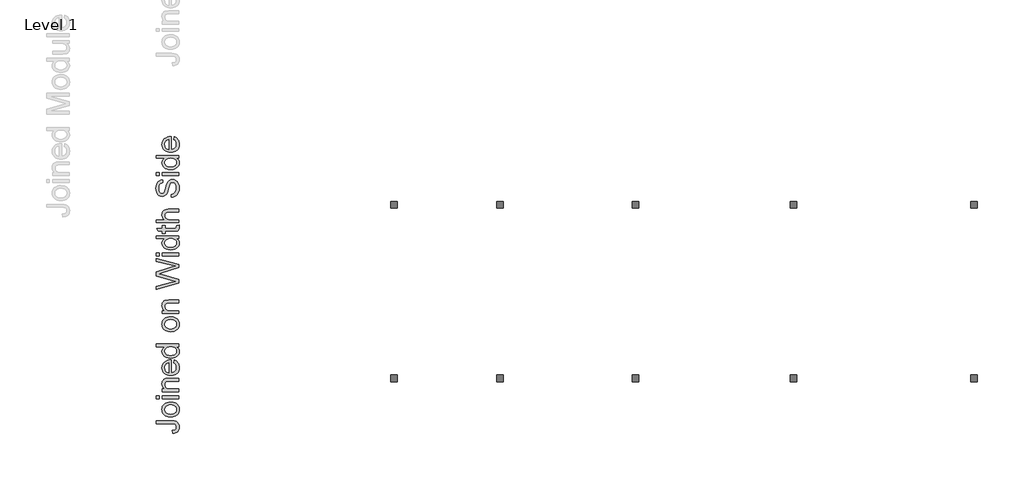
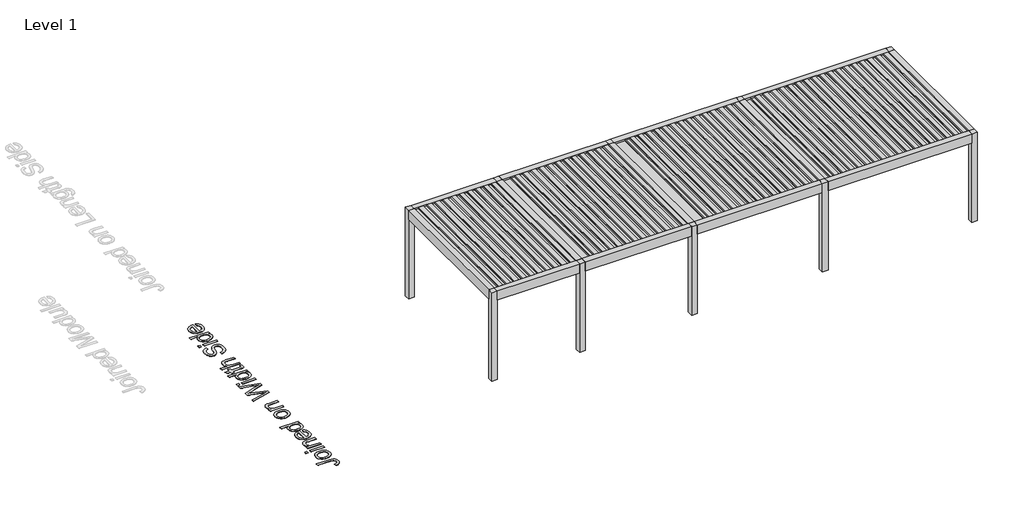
# One storey, part 40 of 69: 2 proxies.
"""IFC4 building model written with IfcOpenShell, lengths in millimetres."""

from ifc_helpers import new_model, si_unit, origin, origin_with_axes, place, context, project, spatial, polyline, outline, extrude, transform, mapped, element, save
from components import generic_models_eab410b6

model = new_model("IFC4")

# Units and contexts
model_context = context("Model", 3, world=origin())
ifc_project = project(units=[si_unit("LENGTHUNIT", "METRE", prefix="MILLI")], contexts=[model_context])

# Site, building, storey
site = spatial("IfcSite", under=ifc_project)
building = spatial("IfcBuilding", under=site)
storey = spatial("IfcBuildingStorey", under=building, Name="Level 1", Elevation=0.0)

# Proxies
placement = place(None, origin())
generic_models_shape = generic_models_eab410b6(model_context)
element("IfcBuildingElementProxy", 1, Name="Renson_Camargue_Freestanding_Patio covers : Renson_Camargue_Freestanding_Patio covers", ObjectType="Renson_Camargue_Freestanding_Patio covers : Renson_Camargue_Freestanding_Patio covers", at=placement, inside=storey, context=model_context, shape_type="MappedRepresentation", body=[
    mapped(generic_models_shape, transform((-10046.834943, 14204.0136657, 0.0), x_axis=(1.0, 0.0, 0.0), y_axis=(0.0, 1.0, 0.0), z_axis=(0.0, 0.0, 1.0))),
])
element("IfcBuildingElementProxy", 2, Name="500mm Arial", ObjectType="500mm Arial", at=placement, inside=storey, context=model_context, shape_type="SweptSolid", body=[
    extrude(outline(polyline([(-16128.0287727, 11064.9341672), (-16136.1221765, 11127.7193611), (-16090.4741523, 11134.2492665), (-16074.0650825, 11140.6642088), (-16061.9326409, 11149.1791441), (-16046.9414495, 11171.9878278), (-16041.9443858, 11202.1541514), (-16044.7801428, 11225.3460455), (-16053.287414, 11245.1350312), (-16066.68445, 11260.402134), (-16084.1895016, 11270.0283795), (-16109.527374, 11275.1327422), (-16146.4228724, 11276.8341965), (-16489.2888919, 11276.8341965), (-16489.2888919, 11339.6193903), (-16147.5265184, 11339.6193903), (-16091.6237835, 11335.8332714), (-16049.976476, 11324.4749148), (-16019.5495693, 11304.8851986), (-15997.308037, 11276.4050008), (-15983.6964032, 11240.6438052), (-15979.1591919, 11199.2110955), (-15981.5006076, 11168.2706868), (-15988.5248544, 11141.1777107), (-16000.2319325, 11117.9321672), (-16016.6218418, 11098.5340561), (-16037.6332686, 11083.328267), (-16063.2048994, 11072.6596891), (-16093.3367341, 11066.5283225), (-16128.0287727, 11064.9341672)])), origin_with_axes(), (0.0, 0.0, 1.0), 5.0),
    extrude(outline(polyline([(-16171.4388481, 11425.9490318), (-16219.209858, 11429.3442761), (-16260.3743204, 11439.5300088), (-16294.9322353, 11456.5062301), (-16322.8836028, 11480.2729398), (-16340.7488722, 11504.2005979), (-16353.5097789, 11530.6114595), (-16361.1663229, 11559.5055245), (-16363.7185042, 11590.882793), (-16360.6106678, 11625.5211821), (-16351.2871585, 11656.8409691), (-16335.7479763, 11684.8421538), (-16313.9931212, 11709.5247364), (-16286.7583573, 11729.6701078), (-16254.7794484, 11744.0596587), (-16218.0563947, 11752.6933893), (-16176.589196, 11755.5712995), (-16113.1602087, 11750.4822652), (-16087.1248933, 11744.1209724), (-16064.8756968, 11735.2151624), (-16045.6576947, 11723.8759664), (-16028.7159624, 11710.2145152), (-16014.0504999, 11694.2308089), (-16001.6613073, 11675.9248476), (-15984.7847208, 11635.197245), (-15979.1591919, 11590.882793), (-15982.2555321, 11555.7385661), (-15991.5445524, 11524.1275393), (-16007.0262531, 11496.0497124), (-16028.700634, 11471.5050856), (-16056.1998131, 11451.5743121), (-16089.1559085, 11437.3380453), (-16127.5689202, 11428.7962852), (-16171.4388481, 11425.9490318)]), holes=[polyline([(-16171.5614754, 11488.7342257), (-16141.107744, 11490.550643), (-16114.7390356, 11495.9998951), (-16092.4553501, 11505.0819818), (-16074.2566877, 11517.7969033), (-16060.1200556, 11533.2632755), (-16050.0224613, 11550.5997145), (-16043.9639046, 11569.8062204), (-16041.9443858, 11590.882793), (-16043.975401, 11611.8520667), (-16050.0684465, 11630.9819305), (-16060.2235224, 11648.2723842), (-16074.4406287, 11663.723428), (-16092.8194, 11676.4383495), (-16115.4594711, 11685.5204363), (-16142.360842, 11690.9696883), (-16173.5235127, 11692.7861057), (-16203.0115539, 11690.958192), (-16228.6904836, 11685.474451), (-16250.5603018, 11676.3348827), (-16268.6210085, 11663.539487), (-16282.7576406, 11648.0309617), (-16292.8552349, 11630.7520042), (-16298.9137915, 11611.7026147), (-16300.9333104, 11590.882793), (-16298.9214557, 11569.8062204), (-16292.8858917, 11550.5997145), (-16282.8266184, 11533.2632755), (-16268.7436358, 11517.7969033), (-16250.5986228, 11505.0819818), (-16228.3532584, 11495.9998951), (-16202.0075426, 11490.550643), (-16171.5614754, 11488.7342257)])]), origin_with_axes(), (0.0, 0.0, 1.0), 5.0),
    extrude(outline(polyline([(-16426.5036981, 11826.2046426), (-16489.2888919, 11826.2046426), (-16489.2888919, 11888.9898364), (-16426.5036981, 11888.9898364), (-16426.5036981, 11826.2046426)])), origin_with_axes(), (0.0, 0.0, 1.0), 5.0),
    extrude(outline(polyline([(-15987.0073412, 11826.2046426), (-16355.870355, 11826.2046426), (-16355.870355, 11888.9898364), (-15987.0073412, 11888.9898364), (-15987.0073412, 11826.2046426)])), origin_with_axes(), (0.0, 0.0, 1.0), 5.0),
    extrude(outline(polyline([(-15987.0073412, 11983.1676272), (-16355.870355, 11983.1676272), (-16355.870355, 12045.952821), (-16304.3668757, 12045.952821), (-16330.3332132, 12067.7651577), (-16348.8805971, 12093.9614214), (-16360.0090274, 12124.5416123), (-16363.7185042, 12159.5057302), (-16360.729463, 12190.4538031), (-16351.7623394, 12218.7960451), (-16337.9361077, 12242.4324633), (-16320.3697425, 12259.2630646), (-16299.1092288, 12270.6827348), (-16274.2005521, 12278.08636), (-16213.5000229, 12281.3972979), (-15987.0073412, 12281.3972979), (-15987.0073412, 12218.6121041), (-16205.038737, 12218.6121041), (-16237.504323, 12216.803351), (-16260.5889182, 12211.3770915), (-16277.1282796, 12201.3676356), (-16289.9581642, 12185.8092929), (-16298.1895238, 12165.867023), (-16300.9333104, 12142.7057858), (-16299.3928045, 12123.6410678), (-16294.771287, 12105.9329147), (-16287.0687577, 12089.5813264), (-16276.2852167, 12074.586303), (-16261.1943907, 12062.0591546), (-16240.5700063, 12053.1111915), (-16214.4120636, 12047.7424137), (-16182.7205626, 12045.952821), (-15987.0073412, 12045.952821), (-15987.0073412, 11983.1676272)])), origin_with_axes(), (0.0, 0.0, 1.0), 5.0),
    extrude(outline(polyline([(-16096.8814304, 12625.9801001), (-16089.0332812, 12687.5390206), (-16064.3775233, 12678.1005482), (-16042.6494929, 12665.358802), (-16023.8491901, 12649.3137821), (-16007.9766149, 12629.9654884), (-15995.3689923, 12607.5131904), (-15986.3635477, 12582.1561574), (-15980.9602809, 12553.8943896), (-15979.1591919, 12522.7278868), (-15982.2670284, 12483.7707163), (-15991.5905377, 12449.0595172), (-16007.1297199, 12418.5942895), (-16028.884575, 12392.3750332), (-16056.2496304, 12371.2907963), (-16088.6194139, 12356.2306271), (-16125.9939254, 12347.1945256), (-16168.3731648, 12344.1824918), (-16212.1894433, 12347.2251825), (-16250.8093885, 12356.3532545), (-16284.2330006, 12371.5667078), (-16312.4602796, 12392.8655425), (-16334.8857529, 12419.015821), (-16350.9039481, 12448.7836058), (-16360.5148652, 12482.1688968), (-16363.7185042, 12519.1716942), (-16360.5225294, 12554.9827071), (-16350.9346049, 12587.367819), (-16334.9547307, 12616.3270298), (-16312.5829069, 12641.8603396), (-16284.4169416, 12662.7031538), (-16251.0546432, 12677.5908783), (-16212.4960116, 12686.523513), (-16168.7410468, 12689.5010579), (-16151.818475, 12689.1331759), (-16151.818475, 12406.9676856), (-16126.7641783, 12410.6043524), (-16104.8215501, 12417.8355329), (-16085.9905905, 12428.661227), (-16070.2712994, 12443.0814348), (-16057.8782747, 12460.2990786), (-16049.0261142, 12479.5170808), (-16043.7148179, 12500.7354413), (-16041.9443858, 12523.9541601), (-16045.2246669, 12557.370108), (-16055.0655103, 12585.5130806), (-16072.0800526, 12608.383078), (-16096.8814304, 12625.9801001)]), holes=[polyline([(-16214.6036688, 12406.9676856), (-16214.6036688, 12626.7158641), (-16247.7743621, 12618.2239214), (-16271.5027508, 12601.5772611), (-16284.3786206, 12584.4554199), (-16293.5756705, 12564.9730026), (-16299.0939004, 12543.1300091), (-16300.9333104, 12518.9264395), (-16295.0625269, 12476.6046816), (-16287.7240475, 12458.1914214), (-16277.4501764, 12441.6099068), (-16264.7160944, 12427.6955368), (-16249.9969825, 12417.2837099), (-16233.2928406, 12410.3744262), (-16214.6036688, 12406.9676856)])]), origin_with_axes(), (0.0, 0.0, 1.0), 5.0),
    extrude(outline(polyline([(-15987.0073412, 12979.8825795), (-16046.2363424, 12979.8825795), (-16016.8900891, 12961.0976051), (-15995.9284795, 12938.3425708), (-15983.3515138, 12911.6174767), (-15979.1591919, 12880.9223228), (-15985.2292449, 12840.332676), (-16003.4394036, 12803.1765944), (-16032.5174097, 12771.7226839), (-16071.1910044, 12748.2395498), (-16117.8966894, 12733.6162405), (-16171.0709661, 12728.7418041), (-16223.5861209, 12733.2330301), (-16271.0122414, 12746.7067082), (-16292.1424635, 12756.8081346), (-16310.6515264, 12769.1475099), (-16326.5394301, 12783.7248339), (-16339.8061745, 12800.5401068), (-16357.7404218, 12838.5085944), (-16363.7185042, 12880.6770681), (-16359.441876, 12911.3952147), (-16346.6119915, 12938.5571687), (-16326.9456331, 12961.5804502), (-16302.1595837, 12979.8825795), (-16489.2888919, 12979.8825795), (-16489.2888919, 13042.6677733), (-15987.0073412, 13042.6677733), (-15987.0073412, 12979.8825795)]), holes=[polyline([(-16171.3162207, 12791.5269979), (-16140.8701535, 12793.29743), (-16114.5244377, 12798.6087263), (-16092.2790733, 12807.4608868), (-16074.1340604, 12819.8539116), (-16060.0510777, 12834.6534977), (-16049.9918044, 12850.7253423), (-16043.9562404, 12868.0694455), (-16041.9443858, 12886.6858073), (-16043.8642699, 12905.3903075), (-16049.6239224, 12922.630944), (-16059.2233432, 12938.4077166), (-16072.6625324, 12952.7206255), (-16090.0487888, 12964.6039803), (-16111.4894113, 12973.092091), (-16136.9844, 12978.1849573), (-16166.5337548, 12979.8825795), (-16198.930363, 12978.1543005), (-16226.7131179, 12972.9694636), (-16249.8820193, 12964.3280688), (-16268.4370675, 12952.2301162), (-16282.6541737, 12937.6029747), (-16292.8092497, 12921.3740138), (-16298.9022952, 12903.5432334), (-16300.9333104, 12884.1106334), (-16298.9827694, 12865.1263896), (-16293.1311464, 12847.7822864), (-16283.3784414, 12832.0783237), (-16269.7246545, 12818.0145016), (-16251.8708814, 12806.4262187), (-16229.5182181, 12798.1488738), (-16202.6666645, 12793.1824669), (-16171.3162207, 12791.5269979)])]), origin_with_axes(), (0.0, 0.0, 1.0), 5.0),
    extrude(outline(polyline([(-16171.4388481, 13317.3529964), (-16219.209858, 13320.7482406), (-16260.3743204, 13330.9339734), (-16294.9322353, 13347.9101946), (-16322.8836028, 13371.6769043), (-16340.7488722, 13395.6045624), (-16353.5097789, 13422.015424), (-16361.1663229, 13450.909489), (-16363.7185042, 13482.2867575), (-16360.6106678, 13516.9251466), (-16351.2871585, 13548.2449336), (-16335.7479763, 13576.2461184), (-16313.9931212, 13600.928701), (-16286.7583573, 13621.0740723), (-16254.7794484, 13635.4636233), (-16218.0563947, 13644.0973539), (-16176.589196, 13646.975264), (-16113.1602087, 13641.8862298), (-16087.1248933, 13635.5249369), (-16064.8756968, 13626.619127), (-16045.6576947, 13615.2799309), (-16028.7159624, 13601.6184797), (-16014.0504999, 13585.6347735), (-16001.6613073, 13567.3288121), (-15984.7847208, 13526.6012095), (-15979.1591919, 13482.2867575), (-15982.2555321, 13447.1425307), (-15991.5445524, 13415.5315038), (-16007.0262531, 13387.453677), (-16028.700634, 13362.9090501), (-16056.1998131, 13342.9782766), (-16089.1559085, 13328.7420098), (-16127.5689202, 13320.2002497), (-16171.4388481, 13317.3529964)]), holes=[polyline([(-16171.5614754, 13380.1381902), (-16141.107744, 13381.9546076), (-16114.7390356, 13387.4038596), (-16092.4553501, 13396.4859464), (-16074.2566877, 13409.2008678), (-16060.1200556, 13424.66724), (-16050.0224613, 13442.0036791), (-16043.9639046, 13461.2101849), (-16041.9443858, 13482.2867575), (-16043.975401, 13503.2560313), (-16050.0684465, 13522.385895), (-16060.2235224, 13539.6763488), (-16074.4406287, 13555.1273926), (-16092.8194, 13567.842314), (-16115.4594711, 13576.9244008), (-16142.360842, 13582.3736528), (-16173.5235127, 13584.1900702), (-16203.0115539, 13582.3621565), (-16228.6904836, 13576.8784155), (-16250.5603018, 13567.7388472), (-16268.6210085, 13554.9434516), (-16282.7576406, 13539.4349262), (-16292.8552349, 13522.1559688), (-16298.9137915, 13503.1065792), (-16300.9333104, 13482.2867575), (-16298.9214557, 13461.2101849), (-16292.8858917, 13442.0036791), (-16282.8266184, 13424.66724), (-16268.7436358, 13409.2008678), (-16250.5986228, 13396.4859464), (-16228.3532584, 13387.4038596), (-16202.0075426, 13381.9546076), (-16171.5614754, 13380.1381902)])]), origin_with_axes(), (0.0, 0.0, 1.0), 5.0),
    extrude(outline(polyline([(-15987.0073412, 13717.6086071), (-16355.870355, 13717.6086071), (-16355.870355, 13780.393801), (-16304.3668757, 13780.393801), (-16330.3332132, 13802.2061376), (-16348.8805971, 13828.4024013), (-16360.0090274, 13858.9825922), (-16363.7185042, 13893.9467101), (-16360.729463, 13924.894783), (-16351.7623394, 13953.237025), (-16337.9361077, 13976.8734432), (-16320.3697425, 13993.7040445), (-16299.1092288, 14005.1237148), (-16274.2005521, 14012.5273399), (-16213.5000229, 14015.8382779), (-15987.0073412, 14015.8382779), (-15987.0073412, 13953.053084), (-16205.038737, 13953.053084), (-16237.504323, 13951.2443309), (-16260.5889182, 13945.8180715), (-16277.1282796, 13935.8086155), (-16289.9581642, 13920.2502728), (-16298.1895238, 13900.308003), (-16300.9333104, 13877.1467657), (-16299.3928045, 13858.0820477), (-16294.771287, 13840.3738946), (-16287.0687577, 13824.0223063), (-16276.2852167, 13809.0272829), (-16261.1943907, 13796.5001346), (-16240.5700063, 13787.5521715), (-16214.4120636, 13782.1833936), (-16182.7205626, 13780.393801), (-15987.0073412, 13780.393801), (-15987.0073412, 13717.6086071)])), origin_with_axes(), (0.0, 0.0, 1.0), 5.0),
    extrude(outline(polyline([(-15987.0073412, 14396.1056336), (-16489.2888919, 14259.130904), (-16489.2888919, 14323.8781352), (-16159.1761149, 14403.3406461), (-16057.2728022, 14427.8661125), (-16147.4038911, 14454.1083615), (-16489.2888919, 14553.6817548), (-16489.2888919, 14647.0011543), (-16241.4590545, 14719.35128), (-16149.4885557, 14750.3453381), (-16057.2728022, 14773.1846786), (-16156.2330589, 14796.974381), (-16489.2888919, 14877.1726559), (-16489.2888919, 14941.9198871), (-15987.0073412, 14804.8225302), (-15987.0073412, 14737.7453797), (-16374.5097094, 14617.32534), (-16428.5883627, 14600.5253955), (-16363.4732496, 14581.6407865), (-15987.0073412, 14471.8893246), (-15987.0073412, 14396.1056336)])), origin_with_axes(), (0.0, 0.0, 1.0), 5.0),
    extrude(outline(polyline([(-16426.5036981, 14996.8569317), (-16489.2888919, 14996.8569317), (-16489.2888919, 15059.6421255), (-16426.5036981, 15059.6421255), (-16426.5036981, 14996.8569317)])), origin_with_axes(), (0.0, 0.0, 1.0), 5.0),
    extrude(outline(polyline([(-15987.0073412, 14996.8569317), (-16355.870355, 14996.8569317), (-16355.870355, 15059.6421255), (-15987.0073412, 15059.6421255), (-15987.0073412, 14996.8569317)])), origin_with_axes(), (0.0, 0.0, 1.0), 5.0),
    extrude(outline(polyline([(-15987.0073412, 15381.416244), (-16046.2363424, 15381.416244), (-16016.8900891, 15362.6312696), (-15995.9284795, 15339.8762353), (-15983.3515138, 15313.1511412), (-15979.1591919, 15282.4559873), (-15985.2292449, 15241.8663405), (-16003.4394036, 15204.710259), (-16032.5174097, 15173.2563484), (-16071.1910044, 15149.7732143), (-16117.8966894, 15135.149905), (-16171.0709661, 15130.2754686), (-16223.5861209, 15134.7666946), (-16271.0122414, 15148.2403727), (-16292.1424635, 15158.3417991), (-16310.6515264, 15170.6811744), (-16326.5394301, 15185.2584985), (-16339.8061745, 15202.0737713), (-16357.7404218, 15240.0422589), (-16363.7185042, 15282.2107326), (-16359.441876, 15312.9288792), (-16346.6119915, 15340.0908332), (-16326.9456331, 15363.1141147), (-16302.1595837, 15381.416244), (-16489.2888919, 15381.416244), (-16489.2888919, 15444.2014378), (-15987.0073412, 15444.2014378), (-15987.0073412, 15381.416244)]), holes=[polyline([(-16171.3162207, 15193.0606624), (-16140.8701535, 15194.8310945), (-16114.5244377, 15200.1423908), (-16092.2790733, 15208.9945514), (-16074.1340604, 15221.3875761), (-16060.0510777, 15236.1871622), (-16049.9918044, 15252.2590068), (-16043.9562404, 15269.6031101), (-16041.9443858, 15288.2194719), (-16043.8642699, 15306.9239721), (-16049.6239224, 15324.1646085), (-16059.2233432, 15339.9413811), (-16072.6625324, 15354.25429), (-16090.0487888, 15366.1376449), (-16111.4894113, 15374.6257555), (-16136.9844, 15379.7186218), (-16166.5337548, 15381.416244), (-16198.930363, 15379.687965), (-16226.7131179, 15374.5031281), (-16249.8820193, 15365.8617334), (-16268.4370675, 15353.7637807), (-16282.6541737, 15339.1366393), (-16292.8092497, 15322.9076783), (-16298.9022952, 15305.0768979), (-16300.9333104, 15285.6442979), (-16298.9827694, 15266.6600541), (-16293.1311464, 15249.3159509), (-16283.3784414, 15233.6119882), (-16269.7246545, 15219.5481661), (-16251.8708814, 15207.9598832), (-16229.5182181, 15199.6825384), (-16202.6666645, 15194.7161314), (-16171.3162207, 15193.0606624)])]), origin_with_axes(), (0.0, 0.0, 1.0), 5.0),
    extrude(outline(polyline([(-16039.3692118, 15671.7977655), (-15985.1679312, 15679.6459147), (-15979.1591919, 15632.6796467), (-15981.7650227, 15602.5439799), (-15989.5825151, 15580.0725214), (-16001.6306505, 15564.1922819), (-16016.9284101, 15553.8302724), (-16043.2013159, 15548.1281015), (-16088.1748898, 15546.2273778), (-16293.0851612, 15546.2273778), (-16293.0851612, 15499.1384824), (-16355.870355, 15499.1384824), (-16355.870355, 15546.2273778), (-16445.5109345, 15546.2273778), (-16482.4217613, 15609.0125717), (-16355.870355, 15609.0125717), (-16355.870355, 15671.7977655), (-16293.0851612, 15671.7977655), (-16293.0851612, 15609.0125717), (-16090.0142998, 15609.0125717), (-16057.6406842, 15612.3235096), (-16046.1750287, 15623.0534011), (-16041.9443858, 15644.4518705), (-16039.3692118, 15671.7977655)])), origin_with_axes(), (0.0, 0.0, 1.0), 5.0),
    extrude(outline(polyline([(-15987.0073412, 15734.5829593), (-16489.2888919, 15734.5829593), (-16489.2888919, 15797.3681532), (-16304.6121303, 15797.3681532), (-16330.4711689, 15820.4297558), (-16348.9419108, 15846.3271154), (-16360.0243559, 15875.060232), (-16363.7185042, 15906.6291058), (-16359.6871307, 15944.5516081), (-16347.5930101, 15977.1398215), (-16328.3865043, 16002.7995907), (-16303.017975, 16019.9367603), (-16268.161156, 16029.5936626), (-16220.4897808, 16032.8126301), (-15987.0073412, 16032.8126301), (-15987.0073412, 15970.0274363), (-16213.9905322, 15970.0274363), (-16253.292592, 15965.0303725), (-16268.2991117, 15958.7840428), (-16280.2092913, 15950.0391812), (-16289.2760497, 15939.0027213), (-16295.7523056, 15925.8815968), (-16300.9333104, 15893.3853539), (-16297.4384314, 15866.851865), (-16286.9537946, 15841.9431883), (-16270.4910753, 15821.3111397), (-16249.0619491, 15807.6075354), (-16220.5817513, 15799.9279987), (-16182.9658173, 15797.3681532), (-15987.0073412, 15797.3681532), (-15987.0073412, 15734.5829593)])), origin_with_axes(), (0.0, 0.0, 1.0), 5.0),
    extrude(outline(polyline([(-16159.6666242, 16299.6497039), (-16159.6666242, 16362.4348978), (-16124.8251336, 16369.6392535), (-16096.8201167, 16382.6684075), (-16074.5939129, 16402.9938877), (-16057.0888612, 16432.0872222), (-16045.7305046, 16467.6491484), (-16041.9443858, 16507.3804039), (-16044.8107997, 16542.3598502), (-16053.4100413, 16572.9860263), (-16067.0216751, 16597.8027326), (-16084.9252655, 16615.3537695), (-16105.480672, 16625.7924211), (-16127.047754, 16629.2719716), (-16148.063013, 16626.6661408), (-16166.2271865, 16618.8486484), (-16181.7242155, 16602.968409), (-16194.7380411, 16576.174337), (-16218.7116845, 16484.7556612), (-16234.5765955, 16424.7449107), (-16249.6750857, 16386.3472275), (-16270.7976436, 16355.0925863), (-16296.3960991, 16332.9430245), (-16325.9186292, 16319.7452579), (-16358.813411, 16315.3460024), (-16395.5862821, 16320.7875902), (-16429.8759497, 16337.1123538), (-16445.4036356, 16349.2486275), (-16458.9386273, 16363.8910973), (-16480.0305284, 16400.6946253), (-16492.860413, 16444.8711215), (-16497.1370411, 16493.7687701), (-16492.6611435, 16546.7437774), (-16479.2334507, 16593.0969088), (-16457.1298742, 16631.1726953), (-16442.9280963, 16646.4857833), (-16426.6263254, 16659.3156679), (-16389.6235281, 16677.1272878), (-16348.0222058, 16684.2090162), (-16348.0222058, 16621.4238224), (-16368.0564461, 16617.2238363), (-16385.4848556, 16609.8968532), (-16400.3074343, 16599.4428732), (-16412.5241823, 16585.8618962), (-16422.0737857, 16568.9010034), (-16428.894931, 16548.3072758), (-16434.3518473, 16496.2213167), (-16428.9562447, 16442.9090842), (-16422.2117415, 16422.5299545), (-16412.7694369, 16406.3354825), (-16401.4187445, 16393.9961073), (-16388.9490777, 16385.1822678), (-16375.3604365, 16379.8939641), (-16360.6528209, 16378.1311962), (-16336.5258934, 16383.12826), (-16317.1201182, 16398.1194513), (-16308.4902197, 16411.8843693), (-16299.7683507, 16433.5587502), (-16282.0487013, 16500.6359006), (-16265.2181, 16569.8590294), (-16250.533477, 16611.7362632), (-16227.7554502, 16647.5281156), (-16199.6431344, 16672.498106), (-16166.503098, 16687.1674006), (-16128.6419093, 16692.0571655), (-16089.9376577, 16686.4316366), (-16053.5326686, 16669.5550501), (-16022.2013854, 16642.1171846), (-15998.7182513, 16604.8078189), (-15984.0489568, 16559.9415439), (-15979.1591919, 16509.8329505), (-15984.4321672, 16448.3200152), (-15991.0233863, 16421.6447385), (-16000.251093, 16397.6902556), (-16012.1306158, 16376.3109468), (-16026.677283, 16357.3611919), (-16043.8910947, 16340.8409911), (-16063.7720508, 16326.7503442), (-16085.676358, 16315.3996519), (-16108.9602226, 16307.0993143), (-16133.6236447, 16301.8493317), (-16159.6666242, 16299.6497039)])), origin_with_axes(), (0.0, 0.0, 1.0), 5.0),
    extrude(outline(polyline([(-16426.5036981, 16778.386807), (-16489.2888919, 16778.386807), (-16489.2888919, 16841.1720008), (-16426.5036981, 16841.1720008), (-16426.5036981, 16778.386807)])), origin_with_axes(), (0.0, 0.0, 1.0), 5.0),
    extrude(outline(polyline([(-15987.0073412, 16778.386807), (-16355.870355, 16778.386807), (-16355.870355, 16841.1720008), (-15987.0073412, 16841.1720008), (-15987.0073412, 16778.386807)])), origin_with_axes(), (0.0, 0.0, 1.0), 5.0),
    extrude(outline(polyline([(-15987.0073412, 17162.9461193), (-16046.2363424, 17162.9461193), (-16016.8900891, 17144.1611449), (-15995.9284795, 17121.4061107), (-15983.3515138, 17094.6810165), (-15979.1591919, 17063.9858626), (-15985.2292449, 17023.3962158), (-16003.4394036, 16986.2401343), (-16032.5174097, 16954.7862237), (-16071.1910044, 16931.3030897), (-16117.8966894, 16916.6797803), (-16171.0709661, 16911.8053439), (-16223.5861209, 16916.2965699), (-16271.0122414, 16929.770248), (-16292.1424635, 16939.8716745), (-16310.6515264, 16952.2110497), (-16326.5394301, 16966.7883738), (-16339.8061745, 16983.6036466), (-16357.7404218, 17021.5721342), (-16363.7185042, 17063.7406079), (-16359.441876, 17094.4587545), (-16346.6119915, 17121.6207085), (-16326.9456331, 17144.64399), (-16302.1595837, 17162.9461193), (-16489.2888919, 17162.9461193), (-16489.2888919, 17225.7313131), (-15987.0073412, 17225.7313131), (-15987.0073412, 17162.9461193)]), holes=[polyline([(-16171.3162207, 16974.5905377), (-16140.8701535, 16976.3609699), (-16114.5244377, 16981.6722662), (-16092.2790733, 16990.5244267), (-16074.1340604, 17002.9174514), (-16060.0510777, 17017.7170375), (-16049.9918044, 17033.7888821), (-16043.9562404, 17051.1329854), (-16041.9443858, 17069.7493472), (-16043.8642699, 17088.4538474), (-16049.6239224, 17105.6944838), (-16059.2233432, 17121.4712564), (-16072.6625324, 17135.7841653), (-16090.0487888, 17147.6675202), (-16111.4894113, 17156.1556308), (-16136.9844, 17161.2484972), (-16166.5337548, 17162.9461193), (-16198.930363, 17161.2178403), (-16226.7131179, 17156.0330035), (-16249.8820193, 17147.3916087), (-16268.4370675, 17135.293656), (-16282.6541737, 17120.6665146), (-16292.8092497, 17104.4375536), (-16298.9022952, 17086.6067732), (-16300.9333104, 17067.1741732), (-16298.9827694, 17048.1899294), (-16293.1311464, 17030.8458262), (-16283.3784414, 17015.1418635), (-16269.7246545, 17001.0780414), (-16251.8708814, 16989.4897586), (-16229.5182181, 16981.2124137), (-16202.6666645, 16976.2460067), (-16171.3162207, 16974.5905377)])]), origin_with_axes(), (0.0, 0.0, 1.0), 5.0),
    extrude(outline(polyline([(-16096.8814304, 17578.1622645), (-16089.0332812, 17639.721185), (-16064.3775233, 17630.2827126), (-16042.6494929, 17617.5409664), (-16023.8491901, 17601.4959465), (-16007.9766149, 17582.1476528), (-15995.3689923, 17559.6953548), (-15986.3635477, 17534.3383218), (-15980.9602809, 17506.076554), (-15979.1591919, 17474.9100512), (-15982.2670284, 17435.9528807), (-15991.5905377, 17401.2416817), (-16007.1297199, 17370.7764539), (-16028.884575, 17344.5571976), (-16056.2496304, 17323.4729607), (-16088.6194139, 17308.4127915), (-16125.9939254, 17299.37669), (-16168.3731648, 17296.3646562), (-16212.1894433, 17299.4073469), (-16250.8093885, 17308.5354189), (-16284.2330006, 17323.7488722), (-16312.4602796, 17345.0477069), (-16334.8857529, 17371.1979854), (-16350.9039481, 17400.9657702), (-16360.5148652, 17434.3510612), (-16363.7185042, 17471.3538586), (-16360.5225294, 17507.1648715), (-16350.9346049, 17539.5499834), (-16334.9547307, 17568.5091942), (-16312.5829069, 17594.042504), (-16284.4169416, 17614.8853183), (-16251.0546432, 17629.7730427), (-16212.4960116, 17638.7056774), (-16168.7410468, 17641.6832223), (-16151.818475, 17641.3153403), (-16151.818475, 17359.14985), (-16126.7641783, 17362.7865168), (-16104.8215501, 17370.0176973), (-16085.9905905, 17380.8433914), (-16070.2712994, 17395.2635992), (-16057.8782747, 17412.481243), (-16049.0261142, 17431.6992452), (-16043.7148179, 17452.9176057), (-16041.9443858, 17476.1363245), (-16045.2246669, 17509.5522724), (-16055.0655103, 17537.695245), (-16072.0800526, 17560.5652424), (-16096.8814304, 17578.1622645)]), holes=[polyline([(-16214.6036688, 17359.14985), (-16214.6036688, 17578.8980285), (-16247.7743621, 17570.4060858), (-16271.5027508, 17553.7594255), (-16284.3786206, 17536.6375843), (-16293.5756705, 17517.155167), (-16299.0939004, 17495.3121735), (-16300.9333104, 17471.1086039), (-16295.0625269, 17428.786846), (-16287.7240475, 17410.3735858), (-16277.4501764, 17393.7920713), (-16264.7160944, 17379.8777012), (-16249.9969825, 17369.4658743), (-16233.2928406, 17362.5565906), (-16214.6036688, 17359.14985)])]), origin_with_axes(), (0.0, 0.0, 1.0), 5.0),
])

save(model, "model.ifc")
